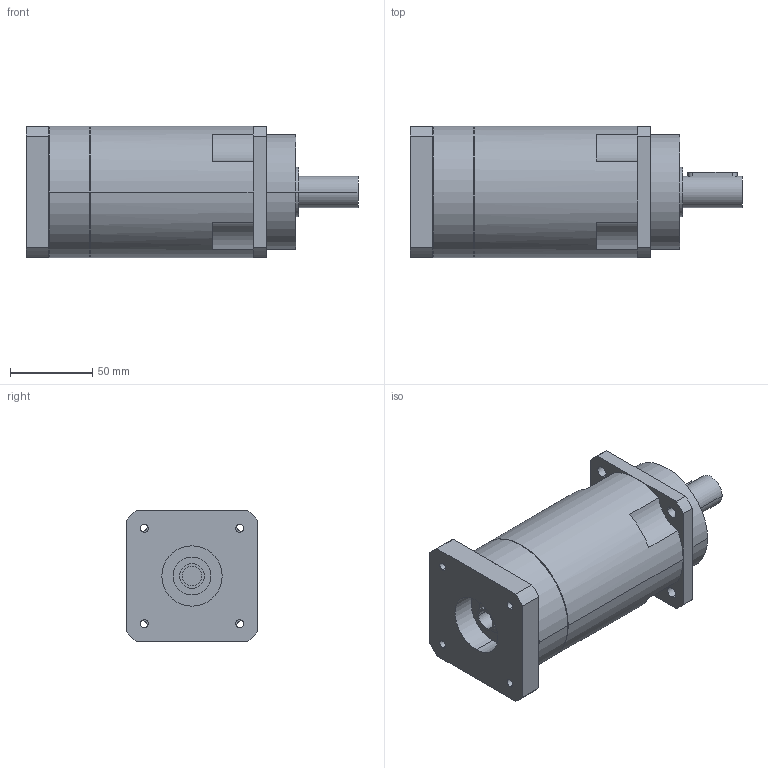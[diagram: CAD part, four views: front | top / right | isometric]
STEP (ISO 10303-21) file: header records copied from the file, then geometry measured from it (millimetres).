
FILE_DESCRIPTION(('CoCreate Modeling STEP Export'),'2;1');
FILE_NAME('GPR100_ig-48-64-80-100-120-144-180-216_19_B5_12_P27.stp','2014-08-26T11:53:42',(''),(''),'CoCreate Modeling STEP processor for AP214 (Solid Model)','CoCreate Modeling 16.00C 25-Feb-2009 (C) Parametric Technology GmbH','');
FILE_SCHEMA(('AUTOMOTIVE_DESIGN { 1 0 10303 214 1 1 1 1 }'));
Length unit declared in the file: millimetre
Products named in the file (2): GPR100_ig-48-64-80-100-120-144-180-216_19_B5_12_P27
Assembly tree (1 placements, depth 2):
  GPR100_ig-48-64-80-100-120-144-180-216_19_B5_12_P27
    GPR100_ig-48-64-80-100-120-144-180-216_19_B5_12_P27
Bounding box: 202.4 x 80 x 80 mm (x, y, z)
Volume: 818567.4 mm3; surface area: 64809.3 mm2
Topology: 1 solids, 1 shells, 90 faces, 260 edges, 176 vertices
Faces by surface type: cylinder 50, plane 34, cone 6
Entity records: 2775 total; most frequent: CARTESIAN_POINT 584, ORIENTED_EDGE 516, DIRECTION 386, EDGE_CURVE 258, VERTEX_POINT 176, AXIS2_PLACEMENT_3D 146, EDGE_LOOP 112, VECTOR 94
